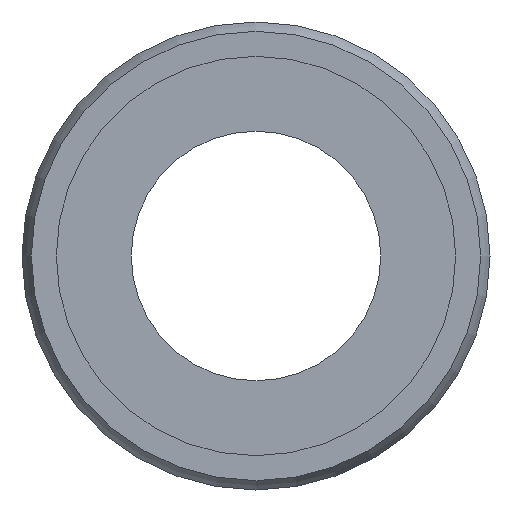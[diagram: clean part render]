
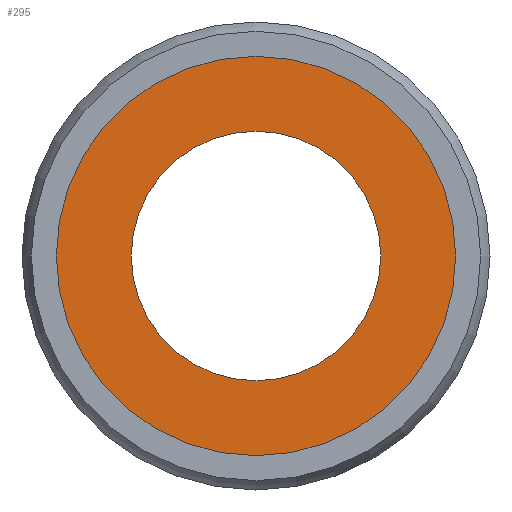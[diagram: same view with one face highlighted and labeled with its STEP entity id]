
A CAD part, left-side view. The second image highlights one B-rep face of the part: STEP entity #295.
In plain terms, the highlighted planar face has unit normal (-1, 0, 0).
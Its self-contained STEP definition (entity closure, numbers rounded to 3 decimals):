
#268=CARTESIAN_POINT('',(0.1,0.0,5.2));
#269=DIRECTION('',(-1.0,0.0,0.0));
#270=DIRECTION('',(0.0,0.0,1.0));
#271=AXIS2_PLACEMENT_3D('',#268,#269,#270);
#272=PLANE('',#271);
#273=CARTESIAN_POINT('',(0.1,0.0,6.4));
#274=VERTEX_POINT('',#273);
#275=CARTESIAN_POINT('',(0.1,0.0,0.));
#276=DIRECTION('',(1.0,0.0,0.0));
#277=DIRECTION('',(0.0,0.0,1.0));
#278=AXIS2_PLACEMENT_3D('',#275,#276,#277);
#279=CIRCLE('',#278,6.4);
#280=EDGE_CURVE('',#274,#274,#279,.T.);
#281=ORIENTED_EDGE('',*,*,#280,.F.);
#282=EDGE_LOOP('',(#281));
#283=FACE_OUTER_BOUND('',#282,.T.);
#284=CARTESIAN_POINT('',(0.1,0.0,4.));
#285=VERTEX_POINT('',#284);
#286=CARTESIAN_POINT('',(0.1,0.0,0.));
#287=DIRECTION('',(-1.0,0.0,0.0));
#288=DIRECTION('',(0.0,0.0,1.0));
#289=AXIS2_PLACEMENT_3D('',#286,#287,#288);
#290=CIRCLE('',#289,4.);
#291=EDGE_CURVE('',#285,#285,#290,.T.);
#292=ORIENTED_EDGE('',*,*,#291,.F.);
#293=EDGE_LOOP('',(#292));
#294=FACE_BOUND('',#293,.T.);
#295=ADVANCED_FACE('',(#283,#294),#272,.T.);
